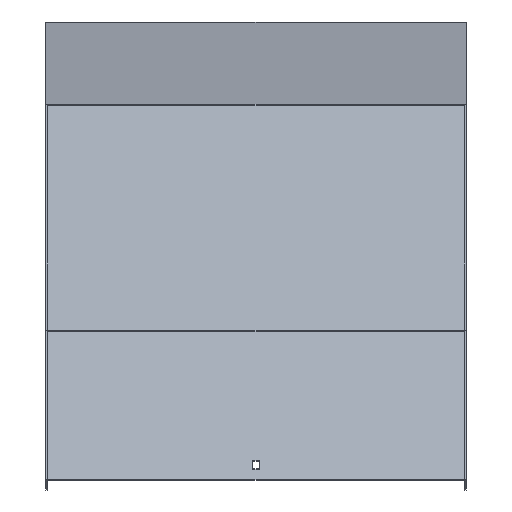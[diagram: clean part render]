
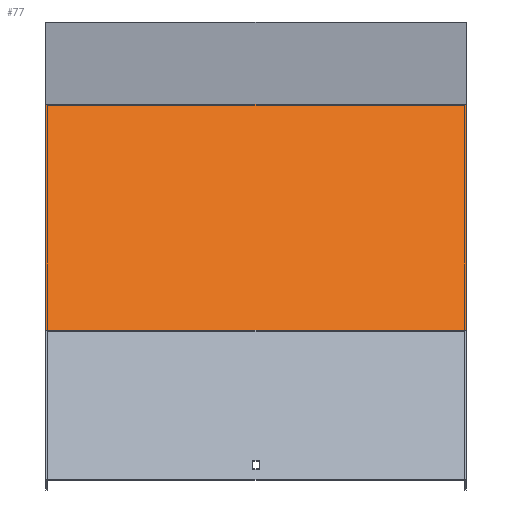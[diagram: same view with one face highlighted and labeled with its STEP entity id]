
A CAD part, top view. The second image highlights one B-rep face of the part: STEP entity #77.
In plain terms, the highlighted planar face has unit normal (0, 0.707, 0.707).
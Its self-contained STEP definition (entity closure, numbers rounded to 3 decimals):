
#29 = EDGE_CURVE ( 'NONE', #712, #955, #333, .T. ) ;
#31 = EDGE_LOOP ( 'NONE', ( #413, #460, #151, #574 ) ) ;
#72 = DIRECTION ( 'NONE',  ( 0., -0.707, 0.707 ) ) ;
#77 = ADVANCED_FACE ( 'NONE', ( #508 ), #905, .F. ) ;
#105 = CARTESIAN_POINT ( 'NONE',  ( 201.5, -59.455, 462.165 ) ) ;
#151 = ORIENTED_EDGE ( 'NONE', *, *, #184, .F. ) ;
#170 = VECTOR ( 'NONE', #608, 1000. ) ;
#184 = EDGE_CURVE ( 'NONE', #306, #712, #329, .T. ) ;
#251 = CARTESIAN_POINT ( 'NONE',  ( -201.5, -59.455, 462.165 ) ) ;
#306 = VERTEX_POINT ( 'NONE', #105 ) ;
#329 = LINE ( 'NONE', #785, #908 ) ;
#333 = LINE ( 'NONE', #947, #949 ) ;
#372 = CARTESIAN_POINT ( 'NONE',  ( -201.5, -63.245, 465.954 ) ) ;
#413 = ORIENTED_EDGE ( 'NONE', *, *, #778, .T. ) ;
#460 = ORIENTED_EDGE ( 'NONE', *, *, #29, .F. ) ;
#508 = FACE_OUTER_BOUND ( 'NONE', #31, .T. ) ;
#509 = VERTEX_POINT ( 'NONE', #251 ) ;
#516 = CARTESIAN_POINT ( 'NONE',  ( 201.5, -63.245, 465.954 ) ) ;
#560 = DIRECTION ( 'NONE',  ( 0., -0.707, 0.707 ) ) ;
#571 = DIRECTION ( 'NONE',  ( -1., 0., 0. ) ) ;
#574 = ORIENTED_EDGE ( 'NONE', *, *, #867, .T. ) ;
#608 = DIRECTION ( 'NONE',  ( -1., 0., 0. ) ) ;
#622 = VECTOR ( 'NONE', #72, 1000. ) ;
#655 = CARTESIAN_POINT ( 'NONE',  ( 201.5, -276.532, 679.241 ) ) ;
#688 = CARTESIAN_POINT ( 'NONE',  ( 201.5, -59.455, 462.165 ) ) ;
#712 = VERTEX_POINT ( 'NONE', #655 ) ;
#760 = LINE ( 'NONE', #372, #622 ) ;
#777 = LINE ( 'NONE', #688, #170 ) ;
#778 = EDGE_CURVE ( 'NONE', #509, #955, #760, .T. ) ;
#782 = CARTESIAN_POINT ( 'NONE',  ( -201.5, -276.532, 679.241 ) ) ;
#785 = CARTESIAN_POINT ( 'NONE',  ( 201.5, -63.245, 465.954 ) ) ;
#805 = DIRECTION ( 'NONE',  ( 0., 0.707, -0.707 ) ) ;
#817 = DIRECTION ( 'NONE',  ( 0., -0.707, -0.707 ) ) ;
#867 = EDGE_CURVE ( 'NONE', #306, #509, #777, .T. ) ;
#905 = PLANE ( 'NONE',  #966 ) ;
#908 = VECTOR ( 'NONE', #560, 1000. ) ;
#947 = CARTESIAN_POINT ( 'NONE',  ( 201.5, -276.532, 679.241 ) ) ;
#949 = VECTOR ( 'NONE', #571, 1000. ) ;
#955 = VERTEX_POINT ( 'NONE', #782 ) ;
#966 = AXIS2_PLACEMENT_3D ( 'NONE', #516, #817, #805 ) ;
